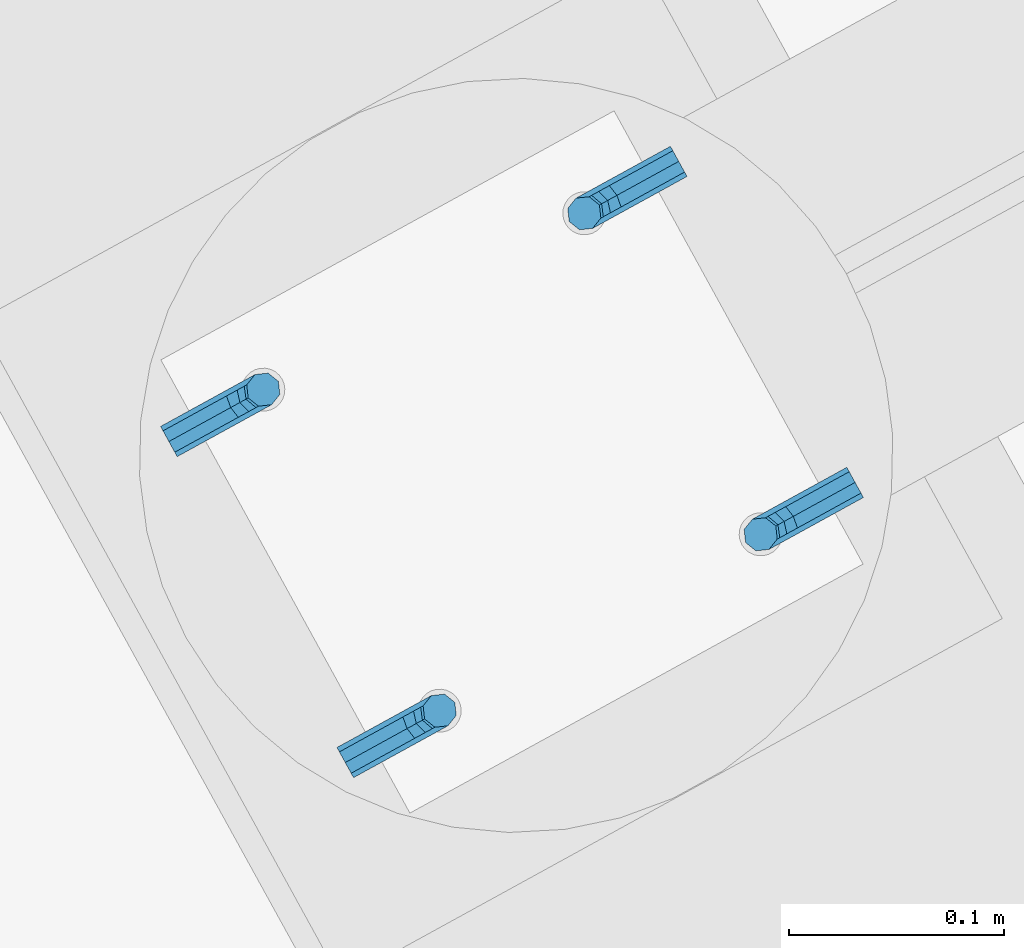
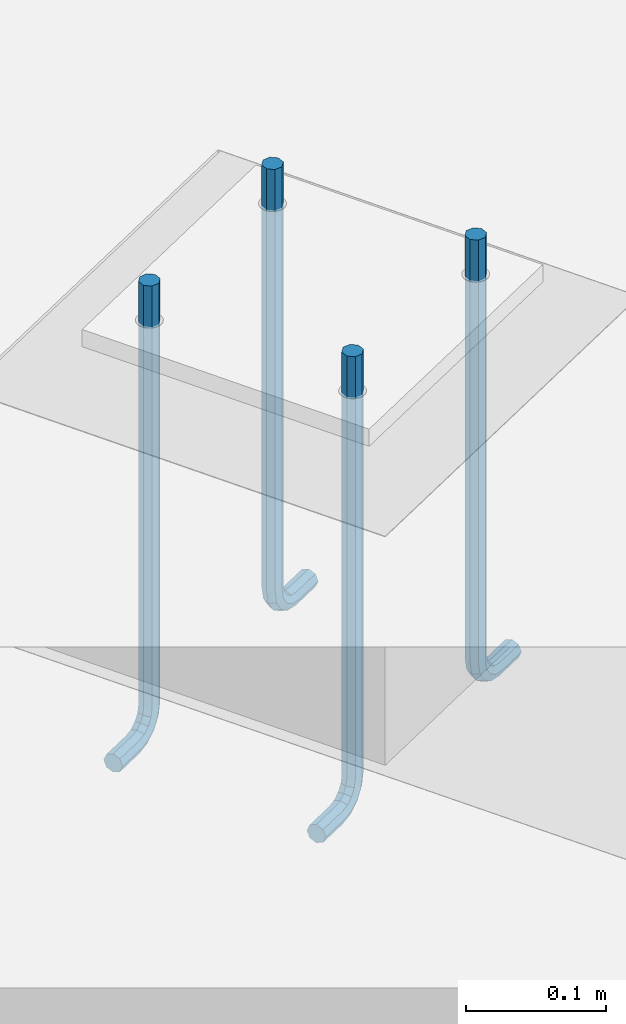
# One storey, part 21 of 22: 4 beams.
"""IFC2X3 building model written with IfcOpenShell, lengths in millimetres."""

from ifc_helpers import new_model, si_unit, frame, origin_with_axes, place, context, subcontext, project, spatial, faceted_brep, material, type_object, element, save


model = new_model("IFC2X3")

# Units and contexts
model_context = context("Model", 3, precision=1e-05, world=origin_with_axes())
body_context = subcontext(model_context, "Body", "Model", "MODEL_VIEW")
ifc_project = project(units=[si_unit("LENGTHUNIT", "METRE", prefix="MILLI"), si_unit("AREAUNIT", "SQUARE_METRE"), si_unit("VOLUMEUNIT", "CUBIC_METRE"), si_unit("MASSUNIT", "GRAM", prefix="KILO"), si_unit("TIMEUNIT", "SECOND"), si_unit("PLANEANGLEUNIT", "RADIAN"), si_unit("SOLIDANGLEUNIT", "STERADIAN"), si_unit("THERMODYNAMICTEMPERATUREUNIT", "DEGREE_CELSIUS"), si_unit("LUMINOUSINTENSITYUNIT", "LUMEN")], contexts=[model_context])

# Site, building, storey
site_placement = place(None, origin_with_axes())
site = spatial("IfcSite", under=ifc_project, at=site_placement, Name="Undefined", CompositionType="ELEMENT")
building_placement = place(site_placement, origin_with_axes())
building = spatial("IfcBuilding", under=site, at=building_placement, Name="Undefined", CompositionType="ELEMENT")
storey_placement = place(building_placement, origin_with_axes())
storey = spatial("IfcBuildingStorey", under=building, at=storey_placement, Name="Undefined", CompositionType="ELEMENT", Elevation=0.0)

# Beams
ifc_material = material(Name="STEEL/S235JR")
beam_type = type_object("IfcBeamType", Name="ANKER_M16", PredefinedType="NOTDEFINED")
beam_1_placement = place(storey_placement, frame((60716.5661991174, 25055.5529207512, 0.0), z_axis=(-0.876415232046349, -0.481556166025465, 0.0), x_axis=(0.0, 0.0, -1.0)))
element("IfcBeam", 1, at=beam_1_placement, inside=storey, type_object=beam_type, material=ifc_material, Name="ANKER", context=body_context, shape_type="Brep", body=[
    faceted_brep([(0.0, -8.00000000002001, 7.27595761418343e-12), (0.0, -5.65685424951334, -5.65685424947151), (369.0, -5.65685424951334, -5.65685424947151), (369.0, -8.00000000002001, 7.27595761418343e-12), (0.0, -9.09494701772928e-12, -7.99999999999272), (369.0, -9.09494701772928e-12, -7.99999999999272), (0.0, 5.65685424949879, -5.65685424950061), (369.0, 5.65685424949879, -5.65685424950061), (0.0, 8.00000000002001, -3.63797880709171e-11), (369.0, 8.00000000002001, -3.63797880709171e-11), (0.0, 5.65685424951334, 5.65685424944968), (369.0, 5.65685424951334, 5.65685424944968), (0.0, 5.45696821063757e-12, 7.99999999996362), (369.0, 5.45696821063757e-12, 7.99999999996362), (0.0, -5.65685424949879, 5.65685424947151), (369.0, -5.65685424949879, 5.65685424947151), (380.863186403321, 9.09494701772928e-12, 5.64026550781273), (379.966503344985, 5.65685424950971, 3.4754811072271), (377.8017189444, 8.00000000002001, -1.75077075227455), (375.636934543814, 5.65685424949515, -6.97702261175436), (374.740251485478, -9.09494701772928e-12, -9.14180701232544), (375.636934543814, -5.65685424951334, -6.97702261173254), (377.8017189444, -8.00000000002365, -1.75077075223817), (379.966503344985, -5.65685424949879, 3.4754811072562), (389.263455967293, -5.65685424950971, -2.73654403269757), (390.920310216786, -1.81898940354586e-12, -1.07968978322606), (385.263455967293, -8.00000000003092, -6.73654403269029), (381.263455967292, -5.65685424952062, -10.736544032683), (379.6066017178, -9.09494701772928e-12, -12.3933982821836), (381.263455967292, 5.65685424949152, -10.7365440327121), (385.263455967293, 8.00000000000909, -6.73654403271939), (389.263455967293, 5.65685424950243, -2.73654403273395), (395.475481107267, -5.65685424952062, -12.0334966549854), (397.640265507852, -1.2732925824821e-11, -11.1368135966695), (390.249229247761, -8.00000000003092, -14.1982810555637), (385.022977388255, -5.65685424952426, -16.3630654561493), (382.85819298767, -1.63709046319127e-11, -17.2597485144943), (385.022977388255, 5.65685424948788, -16.3630654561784), (390.249229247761, 8.00000000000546, -14.1982810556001), (395.475481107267, 5.65685424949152, -12.0334966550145), (397.656854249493, -5.65685424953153, -22.9999999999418), (400.000000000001, -2.36468622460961e-11, -22.9999999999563), (392.0, -8.00000000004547, -22.9999999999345), (386.343145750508, -5.65685424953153, -22.9999999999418), (384.000000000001, -2.36468622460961e-11, -22.9999999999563), (386.343145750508, 5.65685424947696, -22.9999999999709), (392.000000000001, 7.99999999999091, -22.9999999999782), (397.656854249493, 5.65685424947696, -22.9999999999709), (386.343145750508, -5.65685424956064, -49.9999999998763), (392.0, -8.00000000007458, -49.999999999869), (384.0, -5.63886715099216e-11, -49.9999999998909), (386.343145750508, 5.65685424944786, -49.9999999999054), (392.0, 7.9999999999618, -49.9999999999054), (397.656854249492, 5.65685424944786, -49.9999999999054), (400.0, -5.63886715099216e-11, -49.9999999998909), (397.656854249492, -5.65685424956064, -49.9999999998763)], [[[0, 1, 2, 3]], [[1, 4, 5, 2]], [[4, 6, 7, 5]], [[6, 8, 9, 7]], [[8, 10, 11, 9]], [[10, 12, 13, 11]], [[12, 14, 15, 13]], [[14, 0, 3, 15]], [[14, 12, 10, 8, 6, 4, 1, 0]], [[11, 13, 16, 17]], [[9, 11, 17, 18]], [[7, 9, 18, 19]], [[5, 7, 19, 20]], [[2, 5, 20, 21]], [[3, 2, 21, 22]], [[15, 3, 22, 23]], [[13, 15, 23, 16]], [[23, 24, 25, 16]], [[22, 26, 24, 23]], [[21, 27, 26, 22]], [[20, 28, 27, 21]], [[19, 29, 28, 20]], [[18, 30, 29, 19]], [[17, 31, 30, 18]], [[16, 25, 31, 17]], [[24, 32, 33, 25]], [[26, 34, 32, 24]], [[27, 35, 34, 26]], [[28, 36, 35, 27]], [[29, 37, 36, 28]], [[30, 38, 37, 29]], [[31, 39, 38, 30]], [[25, 33, 39, 31]], [[32, 40, 41, 33]], [[34, 42, 40, 32]], [[35, 43, 42, 34]], [[36, 44, 43, 35]], [[37, 45, 44, 36]], [[38, 46, 45, 37]], [[39, 47, 46, 38]], [[33, 41, 47, 39]], [[42, 43, 48, 49]], [[43, 44, 50, 48]], [[44, 45, 51, 50]], [[45, 46, 52, 51]], [[46, 47, 53, 52]], [[47, 41, 54, 53]], [[41, 40, 55, 54]], [[40, 42, 49, 55]], [[50, 51, 52, 53, 54, 55, 49, 48]]]),
])
beam_2_placement = place(storey_placement, frame((60634.7016508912, 25204.5435102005, 0.0), z_axis=(-0.876415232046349, -0.481556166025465, 0.0), x_axis=(0.0, 0.0, -1.0)))
element("IfcBeam", 2, at=beam_2_placement, inside=storey, type_object=beam_type, material=ifc_material, Name="ANKER", context=body_context, shape_type="Brep", body=[
    faceted_brep([(0.0, -8.00000000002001, 7.27595761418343e-12), (0.0, -5.65685424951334, -5.65685424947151), (369.0, -5.65685424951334, -5.65685424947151), (369.0, -8.00000000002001, 7.27595761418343e-12), (0.0, -9.09494701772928e-12, -7.99999999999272), (369.0, -9.09494701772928e-12, -7.99999999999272), (0.0, 5.65685424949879, -5.65685424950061), (369.0, 5.65685424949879, -5.65685424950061), (0.0, 8.00000000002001, -3.63797880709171e-11), (369.0, 8.00000000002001, -3.63797880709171e-11), (0.0, 5.65685424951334, 5.65685424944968), (369.0, 5.65685424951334, 5.65685424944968), (0.0, 5.45696821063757e-12, 7.99999999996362), (369.0, 5.45696821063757e-12, 7.99999999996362), (0.0, -5.65685424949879, 5.65685424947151), (369.0, -5.65685424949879, 5.65685424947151), (380.863186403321, 9.09494701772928e-12, 5.64026550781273), (379.966503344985, 5.65685424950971, 3.4754811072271), (377.8017189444, 8.00000000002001, -1.75077075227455), (375.636934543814, 5.65685424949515, -6.97702261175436), (374.740251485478, -9.09494701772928e-12, -9.14180701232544), (375.636934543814, -5.65685424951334, -6.97702261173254), (377.8017189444, -8.00000000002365, -1.75077075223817), (379.966503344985, -5.65685424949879, 3.4754811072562), (389.263455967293, -5.65685424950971, -2.73654403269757), (390.920310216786, -1.81898940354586e-12, -1.07968978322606), (385.263455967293, -8.00000000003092, -6.73654403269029), (381.263455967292, -5.65685424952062, -10.736544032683), (379.6066017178, -9.09494701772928e-12, -12.3933982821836), (381.263455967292, 5.65685424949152, -10.7365440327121), (385.263455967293, 8.00000000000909, -6.73654403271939), (389.263455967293, 5.65685424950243, -2.73654403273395), (395.475481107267, -5.65685424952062, -12.0334966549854), (397.640265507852, -1.2732925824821e-11, -11.1368135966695), (390.249229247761, -8.00000000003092, -14.1982810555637), (385.022977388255, -5.65685424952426, -16.3630654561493), (382.85819298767, -1.63709046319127e-11, -17.2597485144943), (385.022977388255, 5.65685424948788, -16.3630654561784), (390.249229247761, 8.00000000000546, -14.1982810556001), (395.475481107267, 5.65685424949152, -12.0334966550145), (397.656854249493, -5.65685424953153, -22.9999999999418), (400.000000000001, -2.36468622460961e-11, -22.9999999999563), (392.0, -8.00000000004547, -22.9999999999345), (386.343145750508, -5.65685424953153, -22.9999999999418), (384.000000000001, -2.36468622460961e-11, -22.9999999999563), (386.343145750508, 5.65685424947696, -22.9999999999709), (392.000000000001, 7.99999999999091, -22.9999999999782), (397.656854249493, 5.65685424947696, -22.9999999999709), (386.343145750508, -5.65685424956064, -49.9999999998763), (392.0, -8.00000000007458, -49.999999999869), (384.0, -5.63886715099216e-11, -49.9999999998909), (386.343145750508, 5.65685424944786, -49.9999999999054), (392.0, 7.9999999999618, -49.9999999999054), (397.656854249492, 5.65685424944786, -49.9999999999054), (400.0, -5.63886715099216e-11, -49.9999999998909), (397.656854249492, -5.65685424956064, -49.9999999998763)], [[[0, 1, 2, 3]], [[1, 4, 5, 2]], [[4, 6, 7, 5]], [[6, 8, 9, 7]], [[8, 10, 11, 9]], [[10, 12, 13, 11]], [[12, 14, 15, 13]], [[14, 0, 3, 15]], [[14, 12, 10, 8, 6, 4, 1, 0]], [[11, 13, 16, 17]], [[9, 11, 17, 18]], [[7, 9, 18, 19]], [[5, 7, 19, 20]], [[2, 5, 20, 21]], [[3, 2, 21, 22]], [[15, 3, 22, 23]], [[13, 15, 23, 16]], [[23, 24, 25, 16]], [[22, 26, 24, 23]], [[21, 27, 26, 22]], [[20, 28, 27, 21]], [[19, 29, 28, 20]], [[18, 30, 29, 19]], [[17, 31, 30, 18]], [[16, 25, 31, 17]], [[24, 32, 33, 25]], [[26, 34, 32, 24]], [[27, 35, 34, 26]], [[28, 36, 35, 27]], [[29, 37, 36, 28]], [[30, 38, 37, 29]], [[31, 39, 38, 30]], [[25, 33, 39, 31]], [[32, 40, 41, 33]], [[34, 42, 40, 32]], [[35, 43, 42, 34]], [[36, 44, 43, 35]], [[37, 45, 44, 36]], [[38, 46, 45, 37]], [[39, 47, 46, 38]], [[33, 41, 47, 39]], [[42, 43, 48, 49]], [[43, 44, 50, 48]], [[44, 45, 51, 50]], [[45, 46, 52, 51]], [[46, 47, 53, 52]], [[47, 41, 54, 53]], [[41, 40, 55, 54]], [[40, 42, 49, 55]], [[50, 51, 52, 53, 54, 55, 49, 48]]]),
])
beam_3_placement = place(storey_placement, frame((60567.5756096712, 24973.6883725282, 0.0), z_axis=(-0.876415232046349, -0.481556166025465, 0.0), x_axis=(0.0, 0.0, -1.0)))
element("IfcBeam", 3, at=beam_3_placement, inside=storey, type_object=beam_type, material=ifc_material, Name="ANKER", context=body_context, shape_type="Brep", body=[
    faceted_brep([(0.0, -8.00000000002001, 7.27595761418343e-12), (0.0, -5.65685424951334, -5.65685424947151), (369.0, -5.65685424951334, -5.65685424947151), (369.0, -8.00000000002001, 7.27595761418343e-12), (0.0, -9.09494701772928e-12, -7.99999999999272), (369.0, -9.09494701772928e-12, -7.99999999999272), (0.0, 5.65685424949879, -5.65685424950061), (369.0, 5.65685424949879, -5.65685424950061), (0.0, 8.00000000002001, -3.63797880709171e-11), (369.0, 8.00000000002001, -3.63797880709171e-11), (0.0, 5.65685424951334, 5.65685424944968), (369.0, 5.65685424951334, 5.65685424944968), (0.0, 5.45696821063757e-12, 7.99999999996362), (369.0, 5.45696821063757e-12, 7.99999999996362), (0.0, -5.65685424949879, 5.65685424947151), (369.0, -5.65685424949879, 5.65685424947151), (380.863186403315, -9.09494701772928e-12, -5.64026550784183), (379.966503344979, -5.65685424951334, -3.47548110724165), (377.801718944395, -8.00000000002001, 1.75077075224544), (375.636934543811, -5.65685424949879, 6.97702261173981), (374.740251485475, 1.2732925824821e-11, 9.14180701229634), (375.636934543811, 5.65685424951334, 6.97702261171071), (377.801718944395, 8.00000000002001, 1.75077075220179), (379.966503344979, 5.65685424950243, -3.47548110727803), (389.263455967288, 5.65685424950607, 2.73654403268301), (390.920310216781, -1.81898940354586e-12, 1.07968978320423), (385.263455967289, 8.00000000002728, 6.73654403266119), (381.263455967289, 5.65685424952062, 10.7365440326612), (379.606601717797, 1.2732925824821e-11, 12.3933982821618), (381.263455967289, -5.65685424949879, 10.736544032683), (385.263455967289, -8.00000000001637, 6.73654403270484), (389.263455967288, -5.65685424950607, 2.73654403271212), (395.475481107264, 5.65685424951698, 12.0334966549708), (397.640265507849, 1.2732925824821e-11, 11.1368135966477), (390.249229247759, 8.00000000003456, 14.1982810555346), (385.022977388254, 5.65685424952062, 16.3630654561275), (382.858192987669, 1.63709046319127e-11, 17.2597485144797), (385.022977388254, -5.65685424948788, 16.3630654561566), (390.249229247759, -8.00000000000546, 14.1982810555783), (395.475481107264, -5.65685424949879, 12.0334966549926), (397.656854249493, 5.65685424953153, 22.99999999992), (400.000000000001, 2.36468622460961e-11, 22.9999999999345), (392.000000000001, 8.00000000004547, 22.99999999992), (386.343145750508, 5.65685424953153, 22.99999999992), (384.000000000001, 2.36468622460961e-11, 22.9999999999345), (386.343145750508, -5.65685424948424, 22.9999999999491), (392.0, -7.99999999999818, 22.9999999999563), (397.656854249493, -5.65685424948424, 22.9999999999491), (397.656854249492, -5.6568542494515, 49.9999999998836), (392.0, -7.99999999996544, 49.9999999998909), (400.0, 5.27506927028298e-11, 49.999999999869), (397.656854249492, 5.65685424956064, 49.9999999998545), (392.0, 8.00000000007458, 49.9999999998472), (386.343145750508, 5.65685424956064, 49.9999999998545), (384.0, 5.27506927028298e-11, 49.999999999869), (386.343145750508, -5.6568542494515, 49.9999999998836)], [[[0, 1, 2, 3]], [[1, 4, 5, 2]], [[4, 6, 7, 5]], [[6, 8, 9, 7]], [[8, 10, 11, 9]], [[10, 12, 13, 11]], [[12, 14, 15, 13]], [[14, 0, 3, 15]], [[14, 12, 10, 8, 6, 4, 1, 0]], [[2, 5, 16, 17]], [[3, 2, 17, 18]], [[15, 3, 18, 19]], [[13, 15, 19, 20]], [[11, 13, 20, 21]], [[9, 11, 21, 22]], [[7, 9, 22, 23]], [[5, 7, 23, 16]], [[23, 24, 25, 16]], [[22, 26, 24, 23]], [[21, 27, 26, 22]], [[20, 28, 27, 21]], [[19, 29, 28, 20]], [[18, 30, 29, 19]], [[17, 31, 30, 18]], [[16, 25, 31, 17]], [[24, 32, 33, 25]], [[26, 34, 32, 24]], [[27, 35, 34, 26]], [[28, 36, 35, 27]], [[29, 37, 36, 28]], [[30, 38, 37, 29]], [[31, 39, 38, 30]], [[25, 33, 39, 31]], [[32, 40, 41, 33]], [[34, 42, 40, 32]], [[35, 43, 42, 34]], [[36, 44, 43, 35]], [[37, 45, 44, 36]], [[38, 46, 45, 37]], [[39, 47, 46, 38]], [[33, 41, 47, 39]], [[46, 47, 48, 49]], [[47, 41, 50, 48]], [[41, 40, 51, 50]], [[40, 42, 52, 51]], [[42, 43, 53, 52]], [[43, 44, 54, 53]], [[44, 45, 55, 54]], [[45, 46, 49, 55]], [[50, 51, 52, 53, 54, 55, 49, 48]]]),
])
beam_4_placement = place(storey_placement, frame((60485.711061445, 25122.6789619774, 0.0), z_axis=(0.876415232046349, 0.481556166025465, 0.0), x_axis=(0.0, 0.0, -1.0)))
element("IfcBeam", 4, at=beam_4_placement, inside=storey, type_object=beam_type, material=ifc_material, Name="ANKER", context=body_context, shape_type="Brep", body=[
    faceted_brep([(0.0, -8.00000000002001, 7.27595761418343e-12), (0.0, -5.65685424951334, -5.65685424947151), (369.0, -5.65685424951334, -5.65685424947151), (369.0, -8.00000000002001, 7.27595761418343e-12), (0.0, -9.09494701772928e-12, -7.99999999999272), (369.0, -9.09494701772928e-12, -7.99999999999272), (0.0, 5.65685424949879, -5.65685424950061), (369.0, 5.65685424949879, -5.65685424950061), (0.0, 8.00000000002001, -3.63797880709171e-11), (369.0, 8.00000000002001, -3.63797880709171e-11), (0.0, 5.65685424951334, 5.65685424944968), (369.0, 5.65685424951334, 5.65685424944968), (0.0, 5.45696821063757e-12, 7.99999999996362), (369.0, 5.45696821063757e-12, 7.99999999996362), (0.0, -5.65685424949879, 5.65685424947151), (369.0, -5.65685424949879, 5.65685424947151), (380.863186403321, 9.09494701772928e-12, 5.64026550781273), (379.966503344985, 5.65685424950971, 3.4754811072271), (377.8017189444, 8.00000000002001, -1.75077075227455), (375.636934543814, 5.65685424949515, -6.97702261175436), (374.740251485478, -9.09494701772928e-12, -9.14180701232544), (375.636934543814, -5.65685424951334, -6.97702261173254), (377.8017189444, -8.00000000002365, -1.75077075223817), (379.966503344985, -5.65685424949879, 3.4754811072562), (389.263455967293, -5.65685424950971, -2.73654403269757), (390.920310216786, -1.81898940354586e-12, -1.07968978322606), (385.263455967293, -8.00000000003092, -6.73654403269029), (381.263455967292, -5.65685424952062, -10.736544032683), (379.6066017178, -9.09494701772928e-12, -12.3933982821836), (381.263455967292, 5.65685424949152, -10.7365440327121), (385.263455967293, 8.00000000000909, -6.73654403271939), (389.263455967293, 5.65685424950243, -2.73654403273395), (395.475481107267, -5.65685424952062, -12.0334966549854), (397.640265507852, -1.2732925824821e-11, -11.1368135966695), (390.249229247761, -8.00000000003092, -14.1982810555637), (385.022977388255, -5.65685424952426, -16.3630654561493), (382.85819298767, -1.63709046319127e-11, -17.2597485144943), (385.022977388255, 5.65685424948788, -16.3630654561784), (390.249229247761, 8.00000000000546, -14.1982810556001), (395.475481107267, 5.65685424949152, -12.0334966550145), (397.656854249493, -5.65685424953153, -22.9999999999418), (400.000000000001, -2.36468622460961e-11, -22.9999999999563), (392.0, -8.00000000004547, -22.9999999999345), (386.343145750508, -5.65685424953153, -22.9999999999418), (384.000000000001, -2.36468622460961e-11, -22.9999999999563), (386.343145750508, 5.65685424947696, -22.9999999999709), (392.000000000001, 7.99999999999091, -22.9999999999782), (397.656854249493, 5.65685424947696, -22.9999999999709), (386.343145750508, -5.65685424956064, -49.9999999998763), (392.0, -8.00000000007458, -49.999999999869), (384.0, -5.63886715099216e-11, -49.9999999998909), (386.343145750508, 5.65685424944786, -49.9999999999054), (392.0, 7.9999999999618, -49.9999999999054), (397.656854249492, 5.65685424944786, -49.9999999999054), (400.0, -5.63886715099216e-11, -49.9999999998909), (397.656854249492, -5.65685424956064, -49.9999999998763)], [[[0, 1, 2, 3]], [[1, 4, 5, 2]], [[4, 6, 7, 5]], [[6, 8, 9, 7]], [[8, 10, 11, 9]], [[10, 12, 13, 11]], [[12, 14, 15, 13]], [[14, 0, 3, 15]], [[14, 12, 10, 8, 6, 4, 1, 0]], [[11, 13, 16, 17]], [[9, 11, 17, 18]], [[7, 9, 18, 19]], [[5, 7, 19, 20]], [[2, 5, 20, 21]], [[3, 2, 21, 22]], [[15, 3, 22, 23]], [[13, 15, 23, 16]], [[23, 24, 25, 16]], [[22, 26, 24, 23]], [[21, 27, 26, 22]], [[20, 28, 27, 21]], [[19, 29, 28, 20]], [[18, 30, 29, 19]], [[17, 31, 30, 18]], [[16, 25, 31, 17]], [[24, 32, 33, 25]], [[26, 34, 32, 24]], [[27, 35, 34, 26]], [[28, 36, 35, 27]], [[29, 37, 36, 28]], [[30, 38, 37, 29]], [[31, 39, 38, 30]], [[25, 33, 39, 31]], [[32, 40, 41, 33]], [[34, 42, 40, 32]], [[35, 43, 42, 34]], [[36, 44, 43, 35]], [[37, 45, 44, 36]], [[38, 46, 45, 37]], [[39, 47, 46, 38]], [[33, 41, 47, 39]], [[42, 43, 48, 49]], [[43, 44, 50, 48]], [[44, 45, 51, 50]], [[45, 46, 52, 51]], [[46, 47, 53, 52]], [[47, 41, 54, 53]], [[41, 40, 55, 54]], [[40, 42, 49, 55]], [[50, 51, 52, 53, 54, 55, 49, 48]]]),
])

save(model, "model.ifc")
